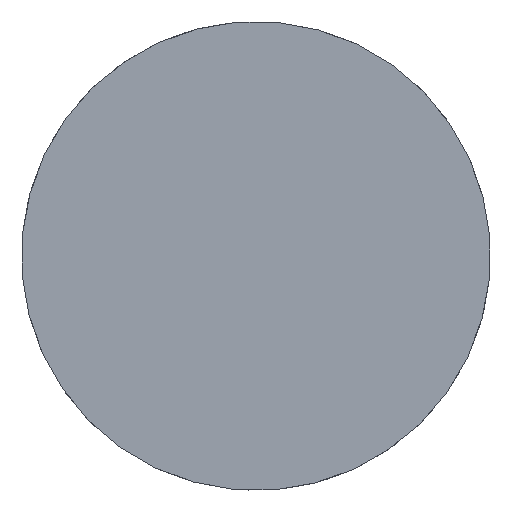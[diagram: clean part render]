
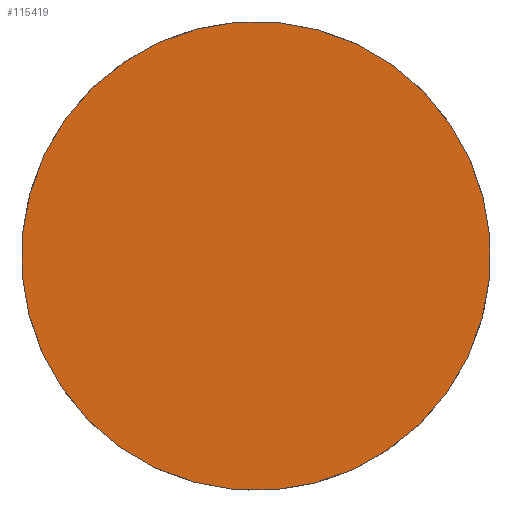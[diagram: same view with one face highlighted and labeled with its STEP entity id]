
A CAD part, left-side view. The second image highlights one B-rep face of the part: STEP entity #115419.
In plain terms, the highlighted planar face has unit normal (-1, 0, 0).
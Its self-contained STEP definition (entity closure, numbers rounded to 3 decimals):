
#10459 = CARTESIAN_POINT ( 'NONE',  ( -1.5, 0., 0. ) ) ;
#14014 = AXIS2_PLACEMENT_3D ( 'NONE', #10459, #73185, #135679 ) ;
#18603 = CARTESIAN_POINT ( 'NONE',  ( -1.5, 24.446, 24.908 ) ) ;
#28747 = ORIENTED_EDGE ( 'NONE', *, *, #28914, .F. ) ;
#28914 = EDGE_CURVE ( 'NONE', #107676, #114389, #63376, .T. ) ;
#33374 = AXIS2_PLACEMENT_3D ( 'NONE', #93951, #127748, #190326 ) ;
#63376 = CIRCLE ( 'NONE', #14014, 34.9 ) ;
#73185 = DIRECTION ( 'NONE',  ( 1., 0., 0. ) ) ;
#80147 = CARTESIAN_POINT ( 'NONE',  ( -1.5, -24.446, -24.908 ) ) ;
#81677 = FACE_OUTER_BOUND ( 'NONE', #194162, .T. ) ;
#93951 = CARTESIAN_POINT ( 'NONE',  ( -1.5, 0., 0. ) ) ;
#107676 = VERTEX_POINT ( 'NONE', #80147 ) ;
#113429 = ORIENTED_EDGE ( 'NONE', *, *, #139729, .F. ) ;
#114389 = VERTEX_POINT ( 'NONE', #18603 ) ;
#115419 = ADVANCED_FACE ( 'NONE', ( #81677 ), #161600, .F. ) ;
#122016 = CIRCLE ( 'NONE', #33374, 34.9 ) ;
#127748 = DIRECTION ( 'NONE',  ( 1., 0., 0. ) ) ;
#132817 = DIRECTION ( 'NONE',  ( 1., 0., 0. ) ) ;
#135679 = DIRECTION ( 'NONE',  ( 0., 0.7, 0.714 ) ) ;
#139729 = EDGE_CURVE ( 'NONE', #114389, #107676, #122016, .T. ) ;
#145111 = CARTESIAN_POINT ( 'NONE',  ( -1.5, 7.88, 8.029 ) ) ;
#161600 = PLANE ( 'NONE',  #200612 ) ;
#175962 = DIRECTION ( 'NONE',  ( 0., 0.7, 0.714 ) ) ;
#190326 = DIRECTION ( 'NONE',  ( 0., 0.7, 0.714 ) ) ;
#194162 = EDGE_LOOP ( 'NONE', ( #113429, #28747 ) ) ;
#200612 = AXIS2_PLACEMENT_3D ( 'NONE', #145111, #132817, #175962 ) ;
